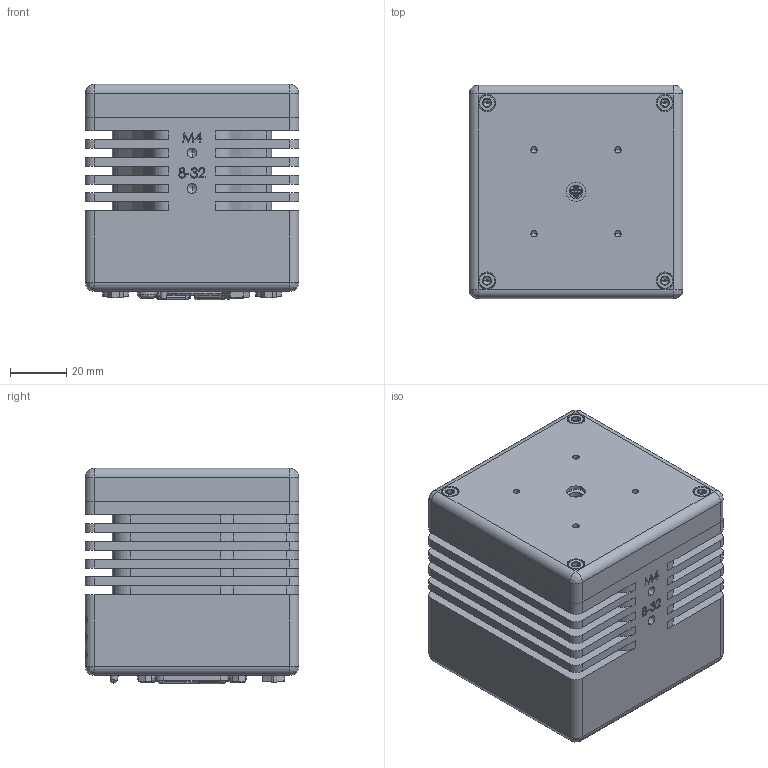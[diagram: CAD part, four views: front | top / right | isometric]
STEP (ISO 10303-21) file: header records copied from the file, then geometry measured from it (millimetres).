
FILE_DESCRIPTION (( 'STEP AP214' ), '1' );
FILE_NAME ('234B-TEC LaserMount.STEP', '2022-06-21T20:16:28', ( '' ), ( '' ), 'SwSTEP 2.0', 'SolidWorks 2020', '' );
FILE_SCHEMA (( 'AUTOMOTIVE_DESIGN' ));
Length unit declared in the file: millimetre
Products named in the file (1): 234B-TEC LaserMount
Bounding box: 76.2 x 76.2 x 76.97 mm (x, y, z)
Volume: 332899.1 mm3; surface area: 86133.5 mm2
Topology: 5 solids, 5 shells, 4127 faces, 10770 edges, 6996 vertices
Faces by surface type: plane 2485, bspline 775, cylinder 564, cone 303
Entity records: 193052 total; most frequent: CARTESIAN_POINT 65216, ORIENTED_EDGE 21498, DIRECTION 17410, EDGE_CURVE 10749, LINE 7350, VECTOR 7350, VERTEX_POINT 6999, AXIS2_PLACEMENT_3D 5030
